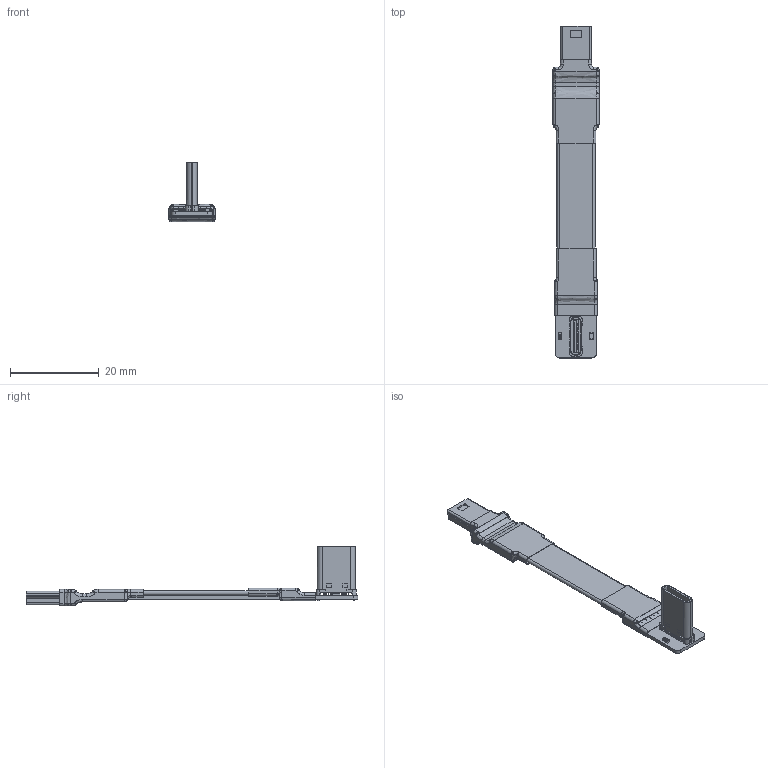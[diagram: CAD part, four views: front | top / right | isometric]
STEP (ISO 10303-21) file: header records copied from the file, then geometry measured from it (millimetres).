
FILE_DESCRIPTION(('Open CASCADE Model'),'2;1');
FILE_NAME('Open CASCADE Shape Model','2026-01-04T16:42:41',('Author'),( 'Open CASCADE'),'Open CASCADE STEP processor 7.5','Open CASCADE 7.5' ,'Unknown');
FILE_SCHEMA(('AUTOMOTIVE_DESIGN { 1 0 10303 214 1 1 1 1 }'));
Length unit declared in the file: millimetre
Products named in the file (71): PCB; Board; Open CASCADE STEP translator 7.5 7.1.1; Designator28; MINI USB B M 5Pһͥʽ¶̗ӽżӳ¤ǰϥº􏣀|´ꁵ; 12; 0603_RES; Capsule; Encapsulation; TopCover; C0603_060; typec new 20211025; Free-Models; UN1 13P ƽֱɈ̵¹ڠ20260104_RGB4408131; USB 13P bʽɈ̵¹ڠ20251229_RGB4408131; cable13-US2A
Assembly tree (71 placements, depth 4):
  PCB
    Board
      Open CASCADE STEP translator 7.5 7.1.1
    Designator28
      MINI USB B M 5Pһͥʽ¶̗ӽżӳ¤ǰϥº􏣀|´ꁵ
      MINI USB B M 5Pһͥʽ¶̗ӽżӳ¤ǰϥº􏣀|´ꁵ
      MINI USB B M 5Pһͥʽ¶̗ӽżӳ¤ǰϥº􏣀|´ꁵ
      MINI USB B M 5Pһͥʽ¶̗ӽżӳ¤ǰϥº􏣀|´ꁵ
    12
      0603_RES
        Capsule
        Encapsulation  x2
        TopCover
    12
      C0603_060
      C0603_060
      C0603_060
    12
      typec new 20211025
      typec new 20211025
      typec new 20211025
      typec new 20211025
      typec new 20211025
      typec new 20211025
      typec new 20211025
      typec new 20211025
      typec new 20211025
      typec new 20211025
      typec new 20211025
      typec new 20211025
      typec new 20211025
      typec new 20211025
      typec new 20211025
      typec new 20211025
      typec new 20211025
      typec new 20211025
      typec new 20211025
      typec new 20211025
      typec new 20211025
      typec new 20211025
      typec new 20211025
    Free-Models
      UN1 13P ƽֱɈ̵¹ڠ20260104_RGB4408131
      USB 13P bʽɈ̵¹ڠ20251229_RGB4408131
      cable13-US2A
      cable13-US2A
      cable13-US2A
      cable13-US2A
      cable13-US2A
      cable13-US2A
      cable13-US2A
      cable13-US2A
      cable13-US2A
      cable13-US2A
      cable13-US2A
      cable13-US2A
      cable13-US2A
      cable13-US2A
      cable13-US2A
      cable13-US2A
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Bounding box: 10.4 x 74.96 x 13.48 mm (x, y, z)
Volume: 757.1 mm3; surface area: 5014.2 mm2
Topology: 63 solids, 64 shells, 1217 faces, 2940 edges, 1837 vertices
Faces by surface type: plane 718, cylinder 247, bspline 184, offset 34, torus 26, sphere 8
Full cylindrical faces by diameter (mm): 0.4 x65, 0.55 x26, 0.6 x2, 0.75 x2
Entity records: 77200 total; most frequent: CARTESIAN_POINT 42767, ORIENTED_EDGE 5716, DIRECTION 4783, EDGE_CURVE 2858, LINE 1819, VECTOR 1819, VERTEX_POINT 1817, AXIS2_PLACEMENT_3D 1482
